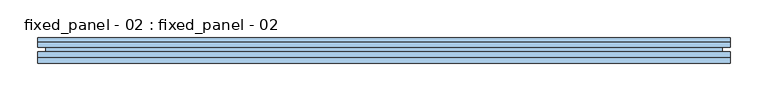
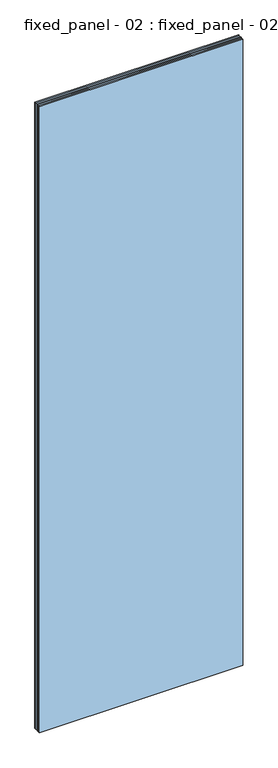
"""IFC4 building model written with IfcOpenShell, lengths in millimetres: window geometry, fixed_panel - 02 : fixed_panel - 02."""

import ifcopenshell
import ifcopenshell.guid

model = None  # the IFC model being written
_history = None  # IfcOwnerHistory: only IFC2X3 demands one
_inside = {}  # id of a spatial element -> (the spatial element, [elements in it])
_under = {}  # id of a project, library or spatial element -> (it, [spatial elements below it])
_declared = {}  # id of a project -> (the project, [libraries it declares])
_typed = {}  # id of a type object -> (the type object, [elements of that type])
_made_of = {}  # id of a material, layer set ... -> (it, [elements and type objects made of it])


def new_model(schema):
    """Start an empty IFC model of exactly this schema.

    Asked for "IFC4X3", IfcOpenShell would pick the latest addendum, in which some entities
    have other attributes; the version numbers below select the first issue.
    IFC2X3 requires an IfcOwnerHistory on every rooted entity: one is made here for all.
    """
    global model, _history
    if schema == "IFC4X3":
        model = ifcopenshell.file(schema_version=(4, 3, 0, 0))
    else:
        model = ifcopenshell.file(schema=schema)
    _inside.clear()
    _under.clear()
    _declared.clear()
    _typed.clear()
    _made_of.clear()
    _history = None
    if model.schema == "IFC2X3":
        org = make("IfcOrganization", Name="unknown")
        user = make(
            "IfcPersonAndOrganization",
            ThePerson=make("IfcPerson", FamilyName="unknown"),
            TheOrganization=org,
        )
        app = make(
            "IfcApplication",
            ApplicationDeveloper=org,
            Version="unknown",
            ApplicationFullName="unknown",
            ApplicationIdentifier="unknown",
        )
        _history = make(
            "IfcOwnerHistory",
            OwningUser=user,
            OwningApplication=app,
            ChangeAction="ADDED",
            CreationDate=0,
        )
    return model


def make(cls, **values):
    """One entity of the class cls with the attributes given. An attribute that is None is left unset."""
    return model.create_entity(
        cls, **{name: value for name, value in values.items() if value is not None}
    )


def rooted(cls, **values):
    """An entity with a GlobalId (a new one), such as an element, a storey or a relation."""
    return make(cls, GlobalId=ifcopenshell.guid.new(), OwnerHistory=_history, **values)


def si_unit(unit_type, name, prefix=None):
    """IfcSIUnit, for example si_unit("LENGTHUNIT", "METRE", prefix="MILLI")."""
    return make("IfcSIUnit", UnitType=unit_type, Prefix=prefix, Name=name)


def assignment(units):
    """IfcUnitAssignment: the units of a project."""
    return None if units is None else make("IfcUnitAssignment", Units=units)


def point(xyz):
    """IfcCartesianPoint."""
    return None if xyz is None else make("IfcCartesianPoint", Coordinates=xyz)


def direction(xyz):
    """IfcDirection."""
    return None if xyz is None else make("IfcDirection", DirectionRatios=xyz)


def frame(location, z_axis=None, x_axis=None):
    """IfcAxis2Placement3D, a coordinate frame: its origin and axes. An axis left out is left unset."""
    return make(
        "IfcAxis2Placement3D",
        Location=point(location),
        Axis=direction(z_axis),
        RefDirection=direction(x_axis),
    )


def origin():
    """The frame at (0, 0, 0) with its axes left unset."""
    return frame((0.0, 0.0, 0.0))


def origin_with_axes():
    """The frame at (0, 0, 0) with the z axis (0, 0, 1) and the x axis (1, 0, 0) written out."""
    return frame((0.0, 0.0, 0.0), z_axis=(0.0, 0.0, 1.0), x_axis=(1.0, 0.0, 0.0))


def place(relative_to, where):
    """IfcLocalPlacement: puts the frame where relative to a parent placement (None: the world)."""
    return make(
        "IfcLocalPlacement", PlacementRelTo=relative_to, RelativePlacement=where
    )


def context(
    kind, dimensions, precision=None, world=None, true_north=None, identifier=None
):
    """IfcGeometricRepresentationContext, for example the 3D "Model" context."""
    return make(
        "IfcGeometricRepresentationContext",
        ContextIdentifier=identifier,
        ContextType=kind,
        CoordinateSpaceDimension=dimensions,
        Precision=precision,
        WorldCoordinateSystem=world,
        TrueNorth=true_north,
    )


def project(units=None, contexts=None):
    """IfcProject with its units and contexts."""
    return rooted(
        "IfcProject",
        Name="project",
        RepresentationContexts=contexts,
        UnitsInContext=assignment(units),
    )


def spatial(cls, under=None, at=None, **own):
    """A site, building, storey or space (cls), placed at a placement, below another one or the project."""
    s = rooted(cls, ObjectPlacement=at, **own)
    if under is not None:
        _under.setdefault(under.id(), (under, []))[1].append(s)
    return s


def polyline(points):
    """IfcPolyline through the points."""
    return make("IfcPolyline", Points=[point(p) for p in points])


def outline(outer, holes=None, kind="AREA"):
    """IfcArbitraryClosedProfileDef: a profile drawn as a closed curve; with holes, ...WithVoids."""
    if holes is None:
        return make("IfcArbitraryClosedProfileDef", ProfileType=kind, OuterCurve=outer)
    return make(
        "IfcArbitraryProfileDefWithVoids",
        ProfileType=kind,
        OuterCurve=outer,
        InnerCurves=holes,
    )


def extrude(swept, where, along, depth):
    """IfcExtrudedAreaSolid: the profile swept, set in the frame where, extruded along a direction by depth."""
    return make(
        "IfcExtrudedAreaSolid",
        SweptArea=swept,
        Position=where,
        ExtrudedDirection=direction(along),
        Depth=depth,
    )


def faces_of(points, faces, orient=None, outer=None):
    """IfcFace entities. A face is a list of loops; a loop is a list of indices into points, from 0.

    orient and outer hold one flag for each loop. By default every Orientation is true, the
    first loop of a face is its IfcFaceOuterBound and the others are IfcFaceBound.
    """
    made = []
    for i, loops in enumerate(faces):
        bounds = []
        for j, loop in enumerate(loops):
            is_outer = j == 0 if outer is None else outer[i][j]
            bounds.append(
                make(
                    "IfcFaceOuterBound" if is_outer else "IfcFaceBound",
                    Bound=make("IfcPolyLoop", Polygon=[points[k] for k in loop]),
                    Orientation=True if orient is None else orient[i][j],
                )
            )
        made.append(make("IfcFace", Bounds=bounds))
    return made


def faceted_brep(points, faces, orient=None, outer=None, voids=None):
    """IfcFacetedBrep: a solid bounded by flat faces; with voids (closed shells), ...WithVoids."""
    shared = [point(p) for p in points]
    hull = make("IfcClosedShell", CfsFaces=faces_of(shared, faces, orient, outer))
    if voids is None:
        return make("IfcFacetedBrep", Outer=hull)
    return make(
        "IfcFacetedBrepWithVoids",
        Outer=hull,
        Voids=[
            make(cls, CfsFaces=faces_of(shared, fs, o, b)) for cls, fs, o, b in voids
        ],
    )


def shape(context_of_items, identifier, shape_type, items):
    """IfcShapeRepresentation: the items that make up one representation, for example the "Body"."""
    return make(
        "IfcShapeRepresentation",
        ContextOfItems=context_of_items,
        RepresentationIdentifier=identifier,
        RepresentationType=shape_type,
        Items=items,
    )


def source(mapping_origin, context_of_items, identifier, shape_type, items):
    """IfcRepresentationMap: a shape defined once, which mapped items show again and again."""
    return make(
        "IfcRepresentationMap",
        MappingOrigin=mapping_origin,
        MappedRepresentation=shape(context_of_items, identifier, shape_type, items),
    )


def transform(
    local_origin,
    x_axis=None,
    y_axis=None,
    z_axis=None,
    scale=None,
    scale2=None,
    scale3=None,
    uniform=True,
):
    """IfcCartesianTransformationOperator3D, or its non-uniform kind. x_axis, y_axis, z_axis: its Axis1, 2, 3."""
    if uniform:
        return make(
            "IfcCartesianTransformationOperator3D",
            Axis1=direction(x_axis),
            Axis2=direction(y_axis),
            LocalOrigin=point(local_origin),
            Scale=scale,
            Axis3=direction(z_axis),
        )
    return make(
        "IfcCartesianTransformationOperator3DnonUniform",
        Axis1=direction(x_axis),
        Axis2=direction(y_axis),
        LocalOrigin=point(local_origin),
        Scale=scale,
        Axis3=direction(z_axis),
        Scale2=scale2,
        Scale3=scale3,
    )


def mapped(mapping_source, mapping_target):
    """IfcMappedItem: shows the shape of a source again, moved by a transform."""
    return make(
        "IfcMappedItem", MappingSource=mapping_source, MappingTarget=mapping_target
    )


def made_of(thing, what):
    """Note that an element or type object is made of a material, layer set ...; save() writes the relation."""
    if what is not None:
        _made_of.setdefault(what.id(), (what, []))[1].append(thing)
    return thing


def element(
    cls,
    number,
    at=None,
    inside=None,
    cuts=None,
    type_object=None,
    material=None,
    context=None,
    identifier="Body",
    shape_type=None,
    held_by="IfcProductDefinitionShape",
    body=None,
    shapes=None,
    **own,
):
    """One element of the class cls, such as IfcWall. Its Tag is "e" and its number.

    at: its placement. inside: the storey or other place that contains it. cuts: it is an
    opening in that element (IfcRelVoidsElement). A single representation is given by context,
    identifier, shape_type and body (its items); several are given by shapes. held_by: the class
    of the entity that holds the representations. save() writes the other relations.
    """
    e = rooted(cls, Tag="e%d" % number, ObjectPlacement=at, **own)
    if body is not None:
        shapes = [shape(context, identifier, shape_type, body)]
    if shapes is not None:
        e.Representation = make(held_by, Representations=shapes)
    if inside is not None:
        _inside.setdefault(inside.id(), (inside, []))[1].append(e)
    if cuts is not None:
        rooted(
            "IfcRelVoidsElement", RelatingBuildingElement=cuts, RelatedOpeningElement=e
        )
    if type_object is not None:
        _typed.setdefault(type_object.id(), (type_object, []))[1].append(e)
    return made_of(e, material)


def aggregate(whole, parts):
    """IfcRelAggregates: a whole, such as a stair, and the parts it consists of."""
    return rooted("IfcRelAggregates", RelatingObject=whole, RelatedObjects=parts)


def save(model, path):
    """Write the relations noted so far, then the file.

    IfcRelAggregates (storeys below a building ...), IfcRelContainedInSpatialStructure (elements
    in a storey), IfcRelDefinesByType, IfcRelAssociatesMaterial and IfcRelDeclares: one each for
    every whole, place, type object, material and project.
    """
    for whole, parts in _under.values():
        aggregate(whole, parts)
    for where, things in _inside.values():
        rooted(
            "IfcRelContainedInSpatialStructure",
            RelatedElements=things,
            RelatingStructure=where,
        )
    for kind, things in _typed.values():
        rooted("IfcRelDefinesByType", RelatedObjects=things, RelatingType=kind)
    for what, things in _made_of.values():
        rooted("IfcRelAssociatesMaterial", RelatedObjects=things, RelatingMaterial=what)
    for by, libraries in _declared.values():
        rooted("IfcRelDeclares", RelatingContext=by, RelatedDefinitions=libraries)
    model.write(path)


def fixed_panel_02_fixed_panel_02_689d1c14(model_context):
    return source(origin(), model_context, "Body", "SolidModel", [
        faceted_brep([(435.4887842, -26.0, 2974.0), (435.4887842, -6.0, 2974.0), (435.4887842, -6.0, 26.0), (435.4887842, -26.0, 26.0), (461.4887842, -6.0, 0.0), (-461.4887842, -6.0, 0.0), (-461.4887842, -6.0, 3000.0), (461.4887842, -6.0, 3000.0), (-435.4887842, -6.0, 2974.0), (-435.4887842, -6.0, 26.0), (-435.4887842, -26.0, 26.0), (461.4887842, -26.0, 3000.0), (-461.4887842, -26.0, 3000.0), (-461.4887842, -26.0, 0.0), (461.4887842, -26.0, 0.0), (-435.4887842, -26.0, 2974.0), (461.4887842, -18.8, 3000.0), (461.4887842, -18.8, 0.0), (-461.4887842, -18.8, 0.0), (-461.4887842, -18.8, 3000.0), (450.4887842, -18.8, 2989.0), (-450.4887842, -18.8, 2989.0), (-450.4887842, -18.8, 11.0), (450.4887842, -18.8, 11.0), (450.4887842, -13.2, 2989.0), (450.4887842, -13.2, 11.0), (-450.4887842, -13.2, 11.0), (461.4887842, -13.2, 3000.0), (-461.4887842, -13.2, 3000.0), (-461.4887842, -13.2, 0.0), (461.4887842, -13.2, 0.0), (-450.4887842, -13.2, 2989.0)], [[[0, 1, 2, 3]], [[4, 5, 6, 7], [1, 8, 9, 2]], [[3, 2, 9, 10]], [[11, 12, 13, 14], [3, 10, 15, 0]], [[16, 11, 14, 17]], [[17, 14, 13, 18]], [[17, 18, 19, 16], [20, 21, 22, 23]], [[24, 20, 23, 25]], [[25, 23, 22, 26]], [[27, 28, 29, 30], [25, 26, 31, 24]], [[7, 27, 30, 4]], [[4, 30, 29, 5]], [[10, 9, 8, 15]], [[18, 13, 12, 19]], [[26, 22, 21, 31]], [[5, 29, 28, 6]], [[15, 8, 1, 0]], [[19, 12, 11, 16]], [[31, 21, 20, 24]], [[6, 28, 27, 7]]]),
        extrude(outline(polyline([(461.4887842, -34.0), (-461.4887842, -34.0), (-461.4887842, -26.0), (461.4887842, -26.0), (461.4887842, -34.0)])), origin_with_axes(), (0.0, 0.0, 1.0), 3000.0),
        extrude(outline(polyline([(461.4887842, -6.0), (-461.4887842, -6.0), (-461.4887842, 0.0), (461.4887842, 0.0), (461.4887842, -6.0)])), origin_with_axes(), (0.0, 0.0, 1.0), 3000.0),
    ])


if __name__ == "__main__":
    model = new_model("IFC4")
    model_context = context("Model", 3, world=origin())
    ifc_project = project(units=[si_unit("LENGTHUNIT", "METRE", prefix="MILLI")], contexts=[model_context])
    site = spatial("IfcSite", under=ifc_project)
    building = spatial("IfcBuilding", under=site)
    placement = place(None, origin())
    fixed_panel_02_fixed_panel_02_shape = fixed_panel_02_fixed_panel_02_689d1c14(model_context)
    element("IfcWindow", 1, ObjectType="fixed_panel - 02 : fixed_panel - 02", at=placement, inside=building, context=model_context, shape_type="MappedRepresentation", body=[
        mapped(fixed_panel_02_fixed_panel_02_shape, transform((0.0, 0.0, 0.0), x_axis=(1.0, 0.0, 0.0), y_axis=(0.0, 1.0, 0.0), z_axis=(0.0, 0.0, 1.0))),
    ])
    save(model, "model.ifc")
